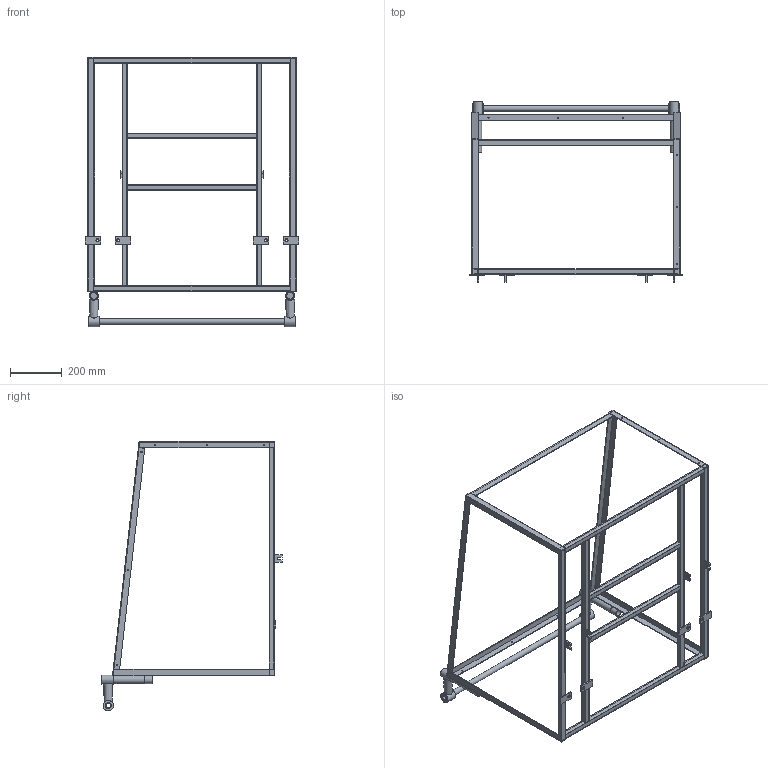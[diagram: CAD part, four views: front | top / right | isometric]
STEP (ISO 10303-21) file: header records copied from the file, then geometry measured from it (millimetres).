
FILE_DESCRIPTION(/* description */ ('Assembly2-tricycle cargo bike B'),/* implementation_level */ '2;1');
FILE_NAME(/* name */ 'C:\Users\Apardo\Documents\Proyectos\Dietrich\Proyecto 1\tricycle cargo bike B\STEP\Assembly2-tricycle cargo bike B.stp',/* time_stamp */ '2021-02-07T09:24:09-04:00',/* author */ ('Apardo'),/* organization */ (''),/* preprocessor_version */ 'ST-DEVELOPER v18',/* originating_system */ 'Autodesk Inventor 2020',/* authorisation */ '');
FILE_SCHEMA (('AUTOMOTIVE_DESIGN { 1 0 10303 214 3 1 1 }'));
Length unit declared in the file: millimetre
Products named in the file (14): Assembly2-tricycle cargo bike B; wl_lacb_2.1_Parts-box-bottom; wl_lacb_2.8_Parts-box-bottom; wl_lacb_2.9_Parts-box-bottom; wl_lacb_2.10_Parts-box-bottom; wl_lacb_2.2_Wheel-mount; wl_lacb_2.3_Brake-holder; wl_lacb_2.4_Angle-profile-box; wl_lacb_2.13_Angle-profile-box; wl_lacb_2.12_Angle-profile-box; wl_lacb_2.11_Angle-profile-box; wl_lacb_2.6_Steering-handle; wl_lacb_2.5_Stem-mounting; wl_lacb_2.7_Wall-plate-holder
Assembly tree (29 placements, depth 2):
  Assembly2-tricycle cargo bike B
    wl_lacb_2.1_Parts-box-bottom  x2
    wl_lacb_2.8_Parts-box-bottom  x2
    wl_lacb_2.9_Parts-box-bottom  x2
    wl_lacb_2.10_Parts-box-bottom  x2
    wl_lacb_2.2_Wheel-mount  x4
    wl_lacb_2.3_Brake-holder  x4
    wl_lacb_2.4_Angle-profile-box  x2
    wl_lacb_2.12_Angle-profile-box  x2
    wl_lacb_2.13_Angle-profile-box  x2
    wl_lacb_2.11_Angle-profile-box  x2
    wl_lacb_2.5_Stem-mounting  x2
    wl_lacb_2.6_Steering-handle
    wl_lacb_2.7_Wall-plate-holder  x2
Bounding box: 826 x 696.87 x 1041.36 mm (x, y, z)
Volume: 2264800.9 mm3; surface area: 1683284.2 mm2
Topology: 29 solids, 29 shells, 288 faces, 718 edges, 496 vertices
Faces by surface type: plane 232, cylinder 54, cone 2
Full cylindrical faces by diameter (mm): 3 x4, 4.5 x24, 10 x4, 12 x4, 18 x1, 22 x1, 23.2 x2, 26 x4, 30 x2, 35 x2, 40 x2
Entity records: 4748 total; most frequent: CARTESIAN_POINT 836, DIRECTION 723, ORIENTED_EDGE 630, EDGE_CURVE 315, AXIS2_PLACEMENT_3D 245, LINE 233, VECTOR 233, VERTEX_POINT 218
